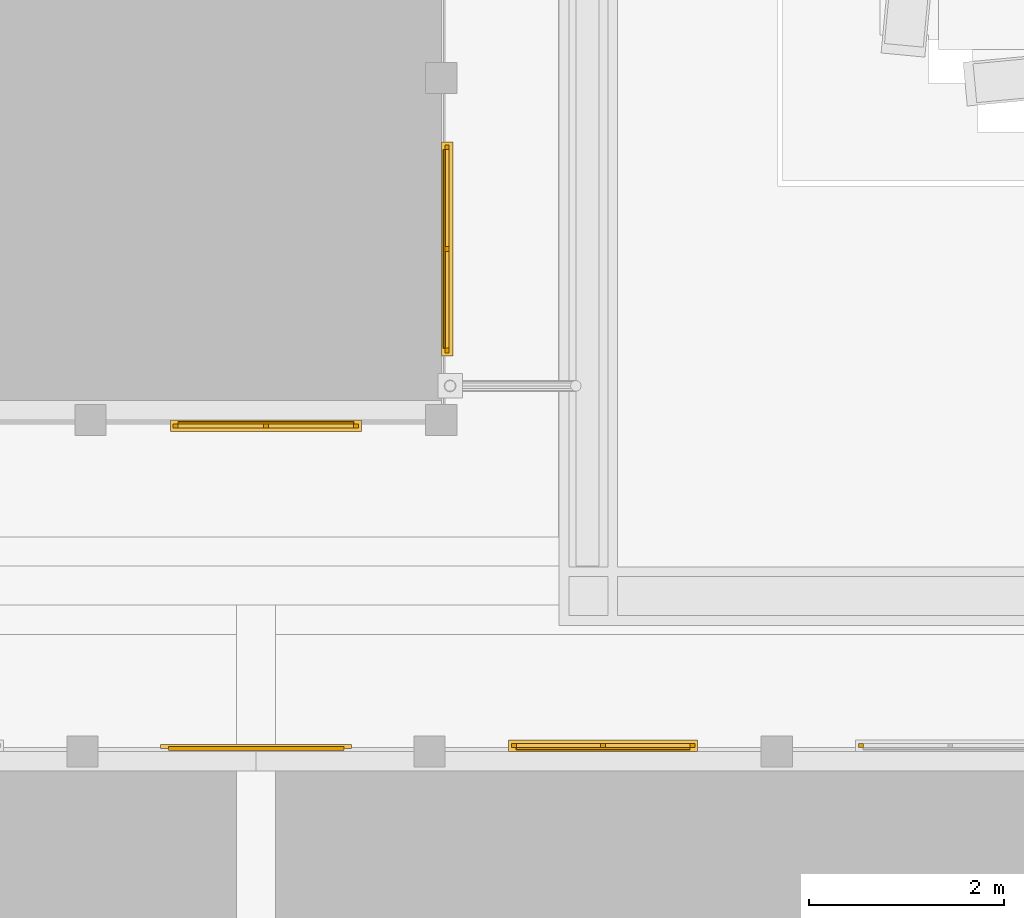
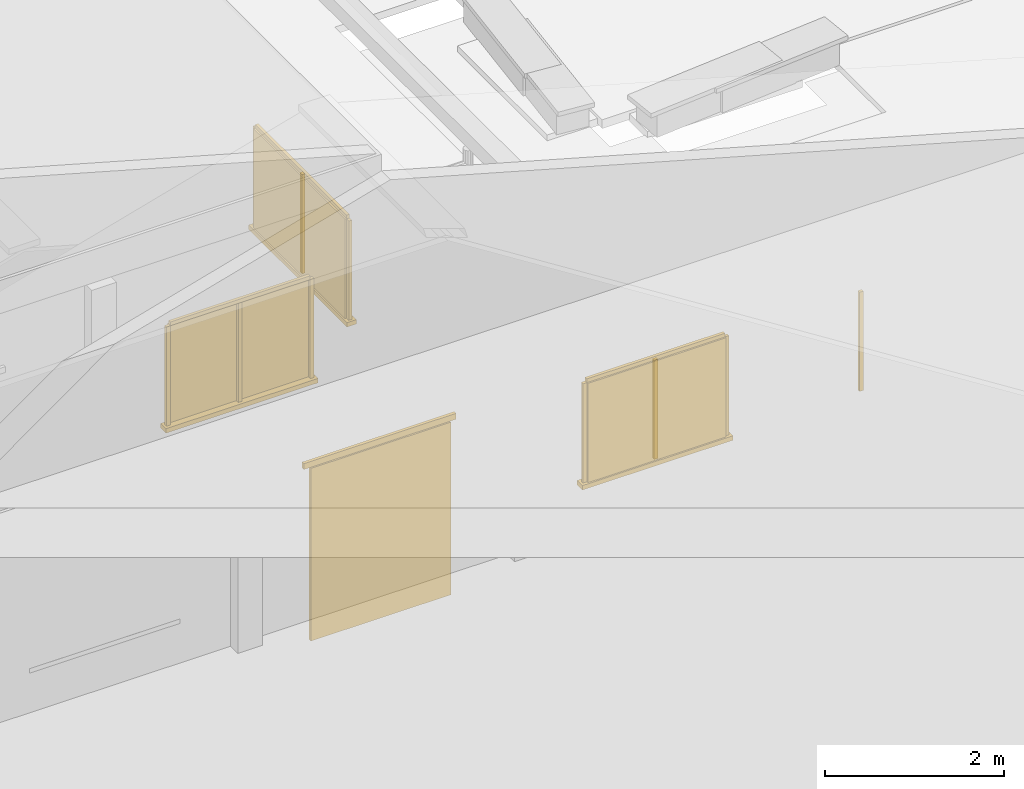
# One storey, part 48 of 177: 19 windows, 2 doors.
"""IFC4 building model written with IfcOpenShell, lengths in metres."""

import ifcopenshell
import ifcopenshell.guid

model = None  # the IFC model being written
_history = None  # IfcOwnerHistory: only IFC2X3 demands one
_inside = {}  # id of a spatial element -> (the spatial element, [elements in it])
_under = {}  # id of a project, library or spatial element -> (it, [spatial elements below it])
_declared = {}  # id of a project -> (the project, [libraries it declares])
_typed = {}  # id of a type object -> (the type object, [elements of that type])
_made_of = {}  # id of a material, layer set ... -> (it, [elements and type objects made of it])


def new_model(schema):
    """Start an empty IFC model of exactly this schema.

    Asked for "IFC4X3", IfcOpenShell would pick the latest addendum, in which some entities
    have other attributes; the version numbers below select the first issue.
    IFC2X3 requires an IfcOwnerHistory on every rooted entity: one is made here for all.
    """
    global model, _history
    if schema == "IFC4X3":
        model = ifcopenshell.file(schema_version=(4, 3, 0, 0))
    else:
        model = ifcopenshell.file(schema=schema)
    _inside.clear()
    _under.clear()
    _declared.clear()
    _typed.clear()
    _made_of.clear()
    _history = None
    if model.schema == "IFC2X3":
        org = make("IfcOrganization", Name="unknown")
        user = make(
            "IfcPersonAndOrganization",
            ThePerson=make("IfcPerson", FamilyName="unknown"),
            TheOrganization=org,
        )
        app = make(
            "IfcApplication",
            ApplicationDeveloper=org,
            Version="unknown",
            ApplicationFullName="unknown",
            ApplicationIdentifier="unknown",
        )
        _history = make(
            "IfcOwnerHistory",
            OwningUser=user,
            OwningApplication=app,
            ChangeAction="ADDED",
            CreationDate=0,
        )
    return model


def make(cls, **values):
    """One entity of the class cls with the attributes given. An attribute that is None is left unset."""
    return model.create_entity(
        cls, **{name: value for name, value in values.items() if value is not None}
    )


def rooted(cls, **values):
    """An entity with a GlobalId (a new one), such as an element, a storey or a relation."""
    return make(cls, GlobalId=ifcopenshell.guid.new(), OwnerHistory=_history, **values)


def si_unit(unit_type, name, prefix=None):
    """IfcSIUnit, for example si_unit("LENGTHUNIT", "METRE", prefix="MILLI")."""
    return make("IfcSIUnit", UnitType=unit_type, Prefix=prefix, Name=name)


def assignment(units):
    """IfcUnitAssignment: the units of a project."""
    return None if units is None else make("IfcUnitAssignment", Units=units)


def point(xyz):
    """IfcCartesianPoint."""
    return None if xyz is None else make("IfcCartesianPoint", Coordinates=xyz)


def direction(xyz):
    """IfcDirection."""
    return None if xyz is None else make("IfcDirection", DirectionRatios=xyz)


def frame(location, z_axis=None, x_axis=None):
    """IfcAxis2Placement3D, a coordinate frame: its origin and axes. An axis left out is left unset."""
    return make(
        "IfcAxis2Placement3D",
        Location=point(location),
        Axis=direction(z_axis),
        RefDirection=direction(x_axis),
    )


def origin():
    """The frame at (0, 0, 0) with its axes left unset."""
    return frame((0.0, 0.0, 0.0))


def origin_with_axes():
    """The frame at (0, 0, 0) with the z axis (0, 0, 1) and the x axis (1, 0, 0) written out."""
    return frame((0.0, 0.0, 0.0), z_axis=(0.0, 0.0, 1.0), x_axis=(1.0, 0.0, 0.0))


def place(relative_to, where):
    """IfcLocalPlacement: puts the frame where relative to a parent placement (None: the world)."""
    return make(
        "IfcLocalPlacement", PlacementRelTo=relative_to, RelativePlacement=where
    )


def context(
    kind, dimensions, precision=None, world=None, true_north=None, identifier=None
):
    """IfcGeometricRepresentationContext, for example the 3D "Model" context."""
    return make(
        "IfcGeometricRepresentationContext",
        ContextIdentifier=identifier,
        ContextType=kind,
        CoordinateSpaceDimension=dimensions,
        Precision=precision,
        WorldCoordinateSystem=world,
        TrueNorth=true_north,
    )


def subcontext(parent, identifier, kind, view, scale=None):
    """IfcGeometricRepresentationSubContext, for example "Body" below "Model"."""
    return make(
        "IfcGeometricRepresentationSubContext",
        ContextIdentifier=identifier,
        ContextType=kind,
        ParentContext=parent,
        TargetScale=scale,
        TargetView=view,
    )


def project(units=None, contexts=None):
    """IfcProject with its units and contexts."""
    return rooted(
        "IfcProject",
        Name="project",
        RepresentationContexts=contexts,
        UnitsInContext=assignment(units),
    )


def spatial(cls, under=None, at=None, **own):
    """A site, building, storey or space (cls), placed at a placement, below another one or the project."""
    s = rooted(cls, ObjectPlacement=at, **own)
    if under is not None:
        _under.setdefault(under.id(), (under, []))[1].append(s)
    return s


def point_list(points):
    """IfcCartesianPointList2D or 3D."""
    cls = (
        "IfcCartesianPointList2D" if len(points[0]) == 2 else "IfcCartesianPointList3D"
    )
    return make(cls, CoordList=points)


def triangles(points, corners, closed=None, point_numbers=None):
    """IfcTriangulatedFaceSet: each triangle names its three corners, points numbered from 1."""
    return make(
        "IfcTriangulatedFaceSet",
        Coordinates=point_list(points),
        Closed=closed,
        CoordIndex=corners,
        PnIndex=point_numbers,
    )


def shape(context_of_items, identifier, shape_type, items):
    """IfcShapeRepresentation: the items that make up one representation, for example the "Body"."""
    return make(
        "IfcShapeRepresentation",
        ContextOfItems=context_of_items,
        RepresentationIdentifier=identifier,
        RepresentationType=shape_type,
        Items=items,
    )


def made_of(thing, what):
    """Note that an element or type object is made of a material, layer set ...; save() writes the relation."""
    if what is not None:
        _made_of.setdefault(what.id(), (what, []))[1].append(thing)
    return thing


def element(
    cls,
    number,
    at=None,
    inside=None,
    cuts=None,
    type_object=None,
    material=None,
    context=None,
    identifier="Body",
    shape_type=None,
    held_by="IfcProductDefinitionShape",
    body=None,
    shapes=None,
    **own,
):
    """One element of the class cls, such as IfcWall. Its Tag is "e" and its number.

    at: its placement. inside: the storey or other place that contains it. cuts: it is an
    opening in that element (IfcRelVoidsElement). A single representation is given by context,
    identifier, shape_type and body (its items); several are given by shapes. held_by: the class
    of the entity that holds the representations. save() writes the other relations.
    """
    e = rooted(cls, Tag="e%d" % number, ObjectPlacement=at, **own)
    if body is not None:
        shapes = [shape(context, identifier, shape_type, body)]
    if shapes is not None:
        e.Representation = make(held_by, Representations=shapes)
    if inside is not None:
        _inside.setdefault(inside.id(), (inside, []))[1].append(e)
    if cuts is not None:
        rooted(
            "IfcRelVoidsElement", RelatingBuildingElement=cuts, RelatedOpeningElement=e
        )
    if type_object is not None:
        _typed.setdefault(type_object.id(), (type_object, []))[1].append(e)
    return made_of(e, material)


def aggregate(whole, parts):
    """IfcRelAggregates: a whole, such as a stair, and the parts it consists of."""
    return rooted("IfcRelAggregates", RelatingObject=whole, RelatedObjects=parts)


def save(model, path):
    """Write the relations noted so far, then the file.

    IfcRelAggregates (storeys below a building ...), IfcRelContainedInSpatialStructure (elements
    in a storey), IfcRelDefinesByType, IfcRelAssociatesMaterial and IfcRelDeclares: one each for
    every whole, place, type object, material and project.
    """
    for whole, parts in _under.values():
        aggregate(whole, parts)
    for where, things in _inside.values():
        rooted(
            "IfcRelContainedInSpatialStructure",
            RelatedElements=things,
            RelatingStructure=where,
        )
    for kind, things in _typed.values():
        rooted("IfcRelDefinesByType", RelatedObjects=things, RelatingType=kind)
    for what, things in _made_of.values():
        rooted("IfcRelAssociatesMaterial", RelatedObjects=things, RelatingMaterial=what)
    for by, libraries in _declared.values():
        rooted("IfcRelDeclares", RelatingContext=by, RelatedDefinitions=libraries)
    model.write(path)


model = new_model("IFC4")

# Units and contexts
model_context = context("Model", 3, precision=1e-05, world=origin_with_axes())
body_context = subcontext(model_context, "Body", "Model", "MODEL_VIEW")
ifc_project = project(units=[si_unit("LENGTHUNIT", "METRE"), si_unit("AREAUNIT", "SQUARE_METRE"), si_unit("VOLUMEUNIT", "CUBIC_METRE"), si_unit("PLANEANGLEUNIT", "RADIAN")], contexts=[model_context])

# Site, building, storey
site_placement = place(None, origin_with_axes())
site = spatial("IfcSite", under=ifc_project, at=site_placement, Name="Predio Los Mangos - Morales, San Martín", CompositionType="ELEMENT")
building_placement = place(site_placement, origin())
building = spatial("IfcBuilding", under=site, at=building_placement, Name="Hogar de Refugio Temporal", CompositionType="ELEMENT")
storey_placement = place(building_placement, origin())
storey = spatial("IfcBuildingStorey", under=building, at=storey_placement, Name="NIVEL 1 (NPT +0.00)", CompositionType="ELEMENT", Elevation=0.0)

# Doors
door_1_placement = place(storey_placement, origin())
element("IfcDoor", 1, at=door_1_placement, inside=storey, Name="E-01_pp", ObjectType="Puerta", PredefinedType="DOOR", context=body_context, shape_type="Tessellation", body=[
    triangles([(21.8, 48.71, 0.15), (23.6, 48.71, 0.15), (23.6, 48.75, 0.15), (21.8, 48.75, 0.15), (21.8, 48.71, 2.5), (23.6, 48.71, 2.5), (23.6, 48.75, 2.5), (21.8, 48.75, 2.5)], [[1, 4, 3], [1, 3, 2], [5, 6, 7], [5, 7, 8], [1, 2, 6], [1, 6, 5], [2, 3, 7], [2, 7, 6], [3, 4, 8], [3, 8, 7], [4, 1, 5], [4, 5, 8]]),
])
door_2_placement = place(storey_placement, origin())
element("IfcDoor", 2, at=door_2_placement, inside=storey, Name="E-01_pp_marco", ObjectType="Puerta", PredefinedType="DOOR", context=body_context, shape_type="Tessellation", body=[
    triangles([(21.72, 48.73, 2.5), (23.68, 48.73, 2.5), (23.68, 48.77, 2.5), (21.72, 48.77, 2.5), (21.72, 48.73, 2.58), (23.68, 48.73, 2.58), (23.68, 48.77, 2.58), (21.72, 48.77, 2.58)], [[1, 4, 3], [1, 3, 2], [5, 6, 7], [5, 7, 8], [1, 2, 6], [1, 6, 5], [2, 3, 7], [2, 7, 6], [3, 4, 8], [3, 8, 7], [4, 1, 5], [4, 5, 8]]),
])

# Windows
window_1_placement = place(storey_placement, origin())
element("IfcWindow", 3, at=window_1_placement, inside=storey, Name="E-01_vg3_vid", ObjectType="Ventana", PredefinedType="WINDOW", context=body_context, shape_type="Tessellation", body=[
    triangles([(25.37, 48.72, 1.05), (27.15, 48.72, 1.05), (27.15, 48.74, 1.05), (25.37, 48.74, 1.05), (25.37, 48.72, 2.4), (27.15, 48.72, 2.4), (27.15, 48.74, 2.4), (25.37, 48.74, 2.4)], [[1, 4, 3], [1, 3, 2], [5, 6, 7], [5, 7, 8], [1, 2, 6], [1, 6, 5], [2, 3, 7], [2, 7, 6], [3, 4, 8], [3, 8, 7], [4, 1, 5], [4, 5, 8]]),
])
window_2_placement = place(storey_placement, origin())
element("IfcWindow", 4, at=window_2_placement, inside=storey, Name="E-01_vg3_m", ObjectType="Ventana", PredefinedType="WINDOW", context=body_context, shape_type="Tessellation", body=[
    triangles([(25.32, 48.74, 1.05), (25.37, 48.74, 1.05), (25.37, 48.78, 1.05), (25.32, 48.78, 1.05), (25.32, 48.74, 2.4), (25.37, 48.74, 2.4), (25.37, 48.78, 2.4), (25.32, 48.78, 2.4)], [[1, 4, 3], [1, 3, 2], [5, 6, 7], [5, 7, 8], [1, 2, 6], [1, 6, 5], [2, 3, 7], [2, 7, 6], [3, 4, 8], [3, 8, 7], [4, 1, 5], [4, 5, 8]]),
])
window_3_placement = place(storey_placement, origin())
element("IfcWindow", 5, at=window_3_placement, inside=storey, Name="E-01_vg3_m", ObjectType="Ventana", PredefinedType="WINDOW", context=body_context, shape_type="Tessellation", body=[
    triangles([(27.15, 48.74, 1.05), (27.2, 48.74, 1.05), (27.2, 48.78, 1.05), (27.15, 48.78, 1.05), (27.15, 48.74, 2.4), (27.2, 48.74, 2.4), (27.2, 48.78, 2.4), (27.15, 48.78, 2.4)], [[1, 4, 3], [1, 3, 2], [5, 6, 7], [5, 7, 8], [1, 2, 6], [1, 6, 5], [2, 3, 7], [2, 7, 6], [3, 4, 8], [3, 8, 7], [4, 1, 5], [4, 5, 8]]),
])
window_4_placement = place(storey_placement, origin())
element("IfcWindow", 6, at=window_4_placement, inside=storey, Name="E-01_vg3_m", ObjectType="Ventana", PredefinedType="WINDOW", context=body_context, shape_type="Tessellation", body=[
    triangles([(25.37, 48.74, 2.4), (27.15, 48.74, 2.4), (27.15, 48.78, 2.4), (25.37, 48.78, 2.4), (25.37, 48.74, 2.45), (27.15, 48.74, 2.45), (27.15, 48.78, 2.45), (25.37, 48.78, 2.45)], [[1, 4, 3], [1, 3, 2], [5, 6, 7], [5, 7, 8], [1, 2, 6], [1, 6, 5], [2, 3, 7], [2, 7, 6], [3, 4, 8], [3, 8, 7], [4, 1, 5], [4, 5, 8]]),
])
window_5_placement = place(storey_placement, origin())
element("IfcWindow", 7, at=window_5_placement, inside=storey, Name="E-01_vg3_m", ObjectType="Ventana", PredefinedType="WINDOW", context=body_context, shape_type="Tessellation", body=[
    triangles([(26.235, 48.74, 1.05), (26.285, 48.74, 1.05), (26.285, 48.78, 1.05), (26.235, 48.78, 1.05), (26.235, 48.74, 2.4), (26.285, 48.74, 2.4), (26.285, 48.78, 2.4), (26.235, 48.78, 2.4)], [[1, 4, 3], [1, 3, 2], [5, 6, 7], [5, 7, 8], [1, 2, 6], [1, 6, 5], [2, 3, 7], [2, 7, 6], [3, 4, 8], [3, 8, 7], [4, 1, 5], [4, 5, 8]]),
])
window_6_placement = place(storey_placement, origin())
element("IfcWindow", 8, at=window_6_placement, inside=storey, Name="E-01_vg3_alf", ObjectType="Ventana", PredefinedType="WINDOW", context=body_context, shape_type="Tessellation", body=[
    triangles([(25.29, 48.7, 0.99), (27.23, 48.7, 0.99), (27.23, 48.82, 0.99), (25.29, 48.82, 0.99), (25.29, 48.7, 1.05), (27.23, 48.7, 1.05), (27.23, 48.82, 1.05), (25.29, 48.82, 1.05)], [[1, 4, 3], [1, 3, 2], [5, 6, 7], [5, 7, 8], [1, 2, 6], [1, 6, 5], [2, 3, 7], [2, 7, 6], [3, 4, 8], [3, 8, 7], [4, 1, 5], [4, 5, 8]]),
])
window_7_placement = place(storey_placement, origin())
element("IfcWindow", 9, at=window_7_placement, inside=storey, Name="E-01_vg4_m", ObjectType="Ventana", PredefinedType="WINDOW", context=body_context, shape_type="Tessellation", body=[
    triangles([(28.88, 48.74, 1.05), (28.93, 48.74, 1.05), (28.93, 48.78, 1.05), (28.88, 48.78, 1.05), (28.88, 48.74, 2.4), (28.93, 48.74, 2.4), (28.93, 48.78, 2.4), (28.88, 48.78, 2.4)], [[1, 4, 3], [1, 3, 2], [5, 6, 7], [5, 7, 8], [1, 2, 6], [1, 6, 5], [2, 3, 7], [2, 7, 6], [3, 4, 8], [3, 8, 7], [4, 1, 5], [4, 5, 8]]),
])
window_8_placement = place(storey_placement, origin())
element("IfcWindow", 10, at=window_8_placement, inside=storey, Name="E-04_vg2_vid", ObjectType="Ventana", PredefinedType="WINDOW", context=body_context, shape_type="Tessellation", body=[
    triangles([(21.9, 52.06, 1.05), (23.7, 52.06, 1.05), (23.7, 52.08, 1.05), (21.9, 52.08, 1.05), (21.9, 52.06, 2.4), (23.7, 52.06, 2.4), (23.7, 52.08, 2.4), (21.9, 52.08, 2.4)], [[1, 4, 3], [1, 3, 2], [5, 6, 7], [5, 7, 8], [1, 2, 6], [1, 6, 5], [2, 3, 7], [2, 7, 6], [3, 4, 8], [3, 8, 7], [4, 1, 5], [4, 5, 8]]),
])
window_9_placement = place(storey_placement, origin())
element("IfcWindow", 11, at=window_9_placement, inside=storey, Name="E-04_vg2_m", ObjectType="Ventana", PredefinedType="WINDOW", context=body_context, shape_type="Tessellation", body=[
    triangles([(21.85, 52.02, 1.05), (21.9, 52.02, 1.05), (21.9, 52.06, 1.05), (21.85, 52.06, 1.05), (21.85, 52.02, 2.4), (21.9, 52.02, 2.4), (21.9, 52.06, 2.4), (21.85, 52.06, 2.4)], [[1, 4, 3], [1, 3, 2], [5, 6, 7], [5, 7, 8], [1, 2, 6], [1, 6, 5], [2, 3, 7], [2, 7, 6], [3, 4, 8], [3, 8, 7], [4, 1, 5], [4, 5, 8]]),
])
window_10_placement = place(storey_placement, origin())
element("IfcWindow", 12, at=window_10_placement, inside=storey, Name="E-04_vg2_m", ObjectType="Ventana", PredefinedType="WINDOW", context=body_context, shape_type="Tessellation", body=[
    triangles([(23.7, 52.02, 1.05), (23.75, 52.02, 1.05), (23.75, 52.06, 1.05), (23.7, 52.06, 1.05), (23.7, 52.02, 2.4), (23.75, 52.02, 2.4), (23.75, 52.06, 2.4), (23.7, 52.06, 2.4)], [[1, 4, 3], [1, 3, 2], [5, 6, 7], [5, 7, 8], [1, 2, 6], [1, 6, 5], [2, 3, 7], [2, 7, 6], [3, 4, 8], [3, 8, 7], [4, 1, 5], [4, 5, 8]]),
])
window_11_placement = place(storey_placement, origin())
element("IfcWindow", 13, at=window_11_placement, inside=storey, Name="E-04_vg2_m", ObjectType="Ventana", PredefinedType="WINDOW", context=body_context, shape_type="Tessellation", body=[
    triangles([(21.9, 52.02, 2.4), (23.7, 52.02, 2.4), (23.7, 52.06, 2.4), (21.9, 52.06, 2.4), (21.9, 52.02, 2.45), (23.7, 52.02, 2.45), (23.7, 52.06, 2.45), (21.9, 52.06, 2.45)], [[1, 4, 3], [1, 3, 2], [5, 6, 7], [5, 7, 8], [1, 2, 6], [1, 6, 5], [2, 3, 7], [2, 7, 6], [3, 4, 8], [3, 8, 7], [4, 1, 5], [4, 5, 8]]),
])
window_12_placement = place(storey_placement, origin())
element("IfcWindow", 14, at=window_12_placement, inside=storey, Name="E-04_vg2_m", ObjectType="Ventana", PredefinedType="WINDOW", context=body_context, shape_type="Tessellation", body=[
    triangles([(22.775, 52.02, 1.05), (22.825, 52.02, 1.05), (22.825, 52.06, 1.05), (22.775, 52.06, 1.05), (22.775, 52.02, 2.4), (22.825, 52.02, 2.4), (22.825, 52.06, 2.4), (22.775, 52.06, 2.4)], [[1, 4, 3], [1, 3, 2], [5, 6, 7], [5, 7, 8], [1, 2, 6], [1, 6, 5], [2, 3, 7], [2, 7, 6], [3, 4, 8], [3, 8, 7], [4, 1, 5], [4, 5, 8]]),
])
window_13_placement = place(storey_placement, origin())
element("IfcWindow", 15, at=window_13_placement, inside=storey, Name="E-04_vg2_alf", ObjectType="Ventana", PredefinedType="WINDOW", context=body_context, shape_type="Tessellation", body=[
    triangles([(21.82, 52.1, 0.99), (23.78, 52.1, 0.99), (23.78, 51.98, 0.99), (21.82, 51.98, 0.99), (21.82, 52.1, 1.05), (23.78, 52.1, 1.05), (23.78, 51.98, 1.05), (21.82, 51.98, 1.05)], [[1, 4, 3], [1, 3, 2], [5, 6, 7], [5, 7, 8], [1, 2, 6], [1, 6, 5], [2, 3, 7], [2, 7, 6], [3, 4, 8], [3, 8, 7], [4, 1, 5], [4, 5, 8]]),
])
window_14_placement = place(storey_placement, origin())
element("IfcWindow", 16, at=window_14_placement, inside=storey, Name="E-04_v0_vid", ObjectType="Ventana", PredefinedType="WINDOW", context=body_context, shape_type="Tessellation", body=[
    triangles([(24.62, 52.8371, 1.05), (24.64, 52.8371, 1.05), (24.64, 54.8729, 1.05), (24.62, 54.8729, 1.05), (24.62, 52.8371, 2.4), (24.64, 52.8371, 2.4), (24.64, 54.8729, 2.4), (24.62, 54.8729, 2.4)], [[1, 4, 3], [1, 3, 2], [5, 6, 7], [5, 7, 8], [1, 2, 6], [1, 6, 5], [2, 3, 7], [2, 7, 6], [3, 4, 8], [3, 8, 7], [4, 1, 5], [4, 5, 8]]),
])
window_15_placement = place(storey_placement, origin())
element("IfcWindow", 17, at=window_15_placement, inside=storey, Name="E-04_v0_m", ObjectType="Ventana", PredefinedType="WINDOW", context=body_context, shape_type="Tessellation", body=[
    triangles([(24.64, 52.7871, 1.05), (24.68, 52.7871, 1.05), (24.68, 52.8371, 1.05), (24.64, 52.8371, 1.05), (24.64, 52.7871, 2.4), (24.68, 52.7871, 2.4), (24.68, 52.8371, 2.4), (24.64, 52.8371, 2.4)], [[1, 4, 3], [1, 3, 2], [5, 6, 7], [5, 7, 8], [1, 2, 6], [1, 6, 5], [2, 3, 7], [2, 7, 6], [3, 4, 8], [3, 8, 7], [4, 1, 5], [4, 5, 8]]),
])
window_16_placement = place(storey_placement, origin())
element("IfcWindow", 18, at=window_16_placement, inside=storey, Name="E-04_v0_m", ObjectType="Ventana", PredefinedType="WINDOW", context=body_context, shape_type="Tessellation", body=[
    triangles([(24.64, 54.8729, 1.05), (24.68, 54.8729, 1.05), (24.68, 54.9229, 1.05), (24.64, 54.9229, 1.05), (24.64, 54.8729, 2.4), (24.68, 54.8729, 2.4), (24.68, 54.9229, 2.4), (24.64, 54.9229, 2.4)], [[1, 4, 3], [1, 3, 2], [5, 6, 7], [5, 7, 8], [1, 2, 6], [1, 6, 5], [2, 3, 7], [2, 7, 6], [3, 4, 8], [3, 8, 7], [4, 1, 5], [4, 5, 8]]),
])
window_17_placement = place(storey_placement, origin())
element("IfcWindow", 19, at=window_17_placement, inside=storey, Name="E-04_v0_m", ObjectType="Ventana", PredefinedType="WINDOW", context=body_context, shape_type="Tessellation", body=[
    triangles([(24.64, 52.8371, 2.4), (24.68, 52.8371, 2.4), (24.68, 54.8729, 2.4), (24.64, 54.8729, 2.4), (24.64, 52.8371, 2.45), (24.68, 52.8371, 2.45), (24.68, 54.8729, 2.45), (24.64, 54.8729, 2.45)], [[1, 4, 3], [1, 3, 2], [5, 6, 7], [5, 7, 8], [1, 2, 6], [1, 6, 5], [2, 3, 7], [2, 7, 6], [3, 4, 8], [3, 8, 7], [4, 1, 5], [4, 5, 8]]),
])
window_18_placement = place(storey_placement, origin())
element("IfcWindow", 20, at=window_18_placement, inside=storey, Name="E-04_v0_m", ObjectType="Ventana", PredefinedType="WINDOW", context=body_context, shape_type="Tessellation", body=[
    triangles([(24.64, 53.83, 1.05), (24.68, 53.83, 1.05), (24.68, 53.88, 1.05), (24.64, 53.88, 1.05), (24.64, 53.83, 2.4), (24.68, 53.83, 2.4), (24.68, 53.88, 2.4), (24.64, 53.88, 2.4)], [[1, 4, 3], [1, 3, 2], [5, 6, 7], [5, 7, 8], [1, 2, 6], [1, 6, 5], [2, 3, 7], [2, 7, 6], [3, 4, 8], [3, 8, 7], [4, 1, 5], [4, 5, 8]]),
])
window_19_placement = place(storey_placement, origin())
element("IfcWindow", 21, at=window_19_placement, inside=storey, Name="E-04_v0_alf", ObjectType="Ventana", PredefinedType="WINDOW", context=body_context, shape_type="Tessellation", body=[
    triangles([(24.6, 52.7571, 0.99), (24.72, 52.7571, 0.99), (24.72, 54.9529, 0.99), (24.6, 54.9529, 0.99), (24.6, 52.7571, 1.05), (24.72, 52.7571, 1.05), (24.72, 54.9529, 1.05), (24.6, 54.9529, 1.05)], [[1, 4, 3], [1, 3, 2], [5, 6, 7], [5, 7, 8], [1, 2, 6], [1, 6, 5], [2, 3, 7], [2, 7, 6], [3, 4, 8], [3, 8, 7], [4, 1, 5], [4, 5, 8]]),
])

save(model, "model.ifc")
